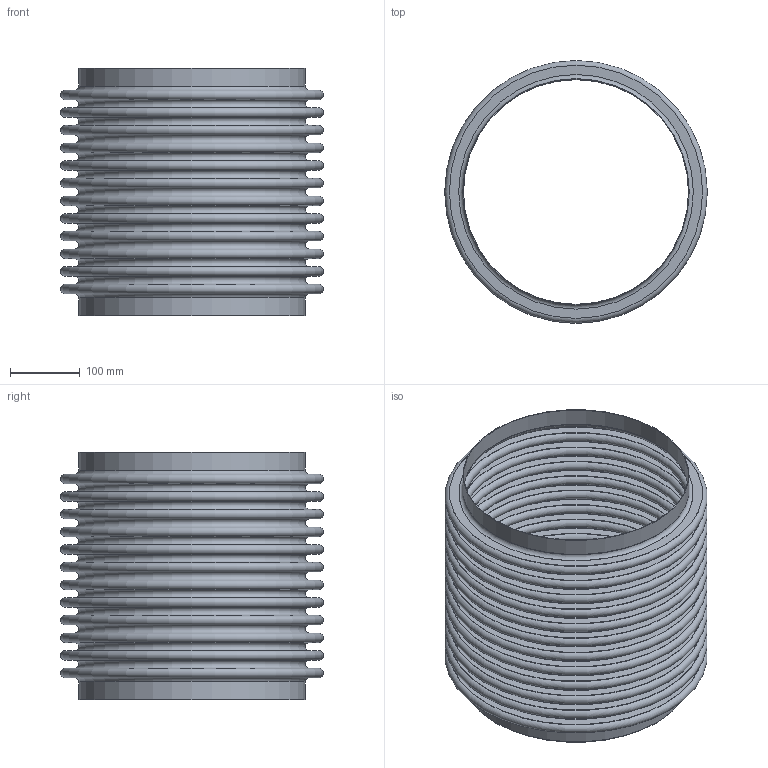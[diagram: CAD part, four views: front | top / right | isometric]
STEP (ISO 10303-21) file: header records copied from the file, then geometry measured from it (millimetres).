
FILE_DESCRIPTION(/* description */ (''),/* implementation_level */ '2;1');
FILE_NAME(/* name */ 'US-12-12-85L.stp',/* time_stamp */ '2026-07-21T11:14:40-05:00',/* author */ ('linda'),/* organization */ (''),/* preprocessor_version */ 'ST-DEVELOPER v20.1',/* originating_system */ 'Autodesk Inventor 2026',/* authorisation */ '');
FILE_SCHEMA (('AUTOMOTIVE_DESIGN { 1 0 10303 214 3 1 1 }'));
Length unit declared in the file: inch
Products named in the file (1): Part3
Bounding box: 377.82 x 377.82 x 355.6 mm (x, y, z)
Volume: 853397.4 mm3; surface area: 1872171.2 mm2
Topology: 3 solids, 3 shells, 108 faces, 162 edges, 109 vertices
Faces by surface type: plane 54, torus 50, cylinder 4
Full cylindrical faces by diameter (mm): 323.85 x2, 325.679 x2
Entity records: 2667 total; most frequent: DIRECTION 538, CARTESIAN_POINT 380, ORIENTED_EDGE 324, AXIS2_PLACEMENT_3D 267, EDGE_LOOP 162, EDGE_CURVE 162, CIRCLE 158, STYLED_ITEM 111
